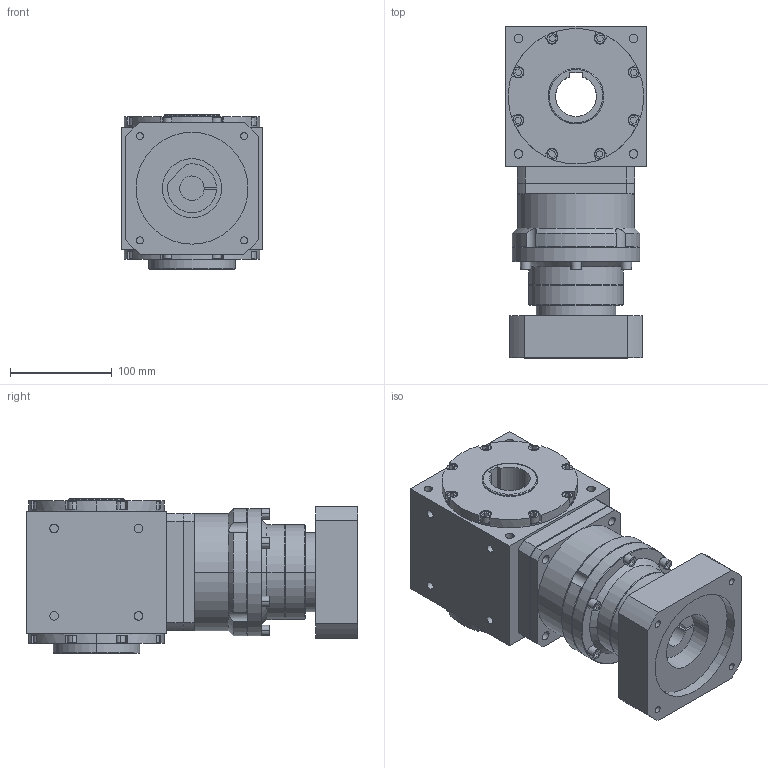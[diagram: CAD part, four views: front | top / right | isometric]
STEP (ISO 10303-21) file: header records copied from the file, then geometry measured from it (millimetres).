
FILE_DESCRIPTION (( 'STEP AP203' ), '1' );
FILE_NAME ('AAW135AS-L2-RFK 24-110-145-M8.STEP', '2024-12-14T08:43:44', ( '' ), ( '' ), 'SwSTEP 2.0', 'SolidWorks 2021', '' );
FILE_SCHEMA (( 'CONFIG_CONTROL_DESIGN' ));
Length unit declared in the file: millimetre
Products named in the file (3): AAW135AS-L2-RFK 24-110-145-M8; VRB-115-L2-S2-P1 24-110-145-M8; AAW135AS-RFK
Assembly tree (2 placements, depth 2):
  AAW135AS-L2-RFK 24-110-145-M8
    AAW135AS-RFK
    VRB-115-L2-S2-P1 24-110-145-M8
Bounding box: 138 x 326 x 151.5 mm (x, y, z)
Volume: 4516594.3 mm3; surface area: 306441 mm2
Topology: 2 solids, 2 shells, 589 faces, 1404 edges, 906 vertices
Faces by surface type: plane 321, cylinder 205, cone 53, bspline 10
Entity records: 17893 total; most frequent: CARTESIAN_POINT 3537, DIRECTION 3060, ORIENTED_EDGE 2804, EDGE_CURVE 1402, AXIS2_PLACEMENT_3D 1111, VERTEX_POINT 906, VECTOR 838, LINE 838
